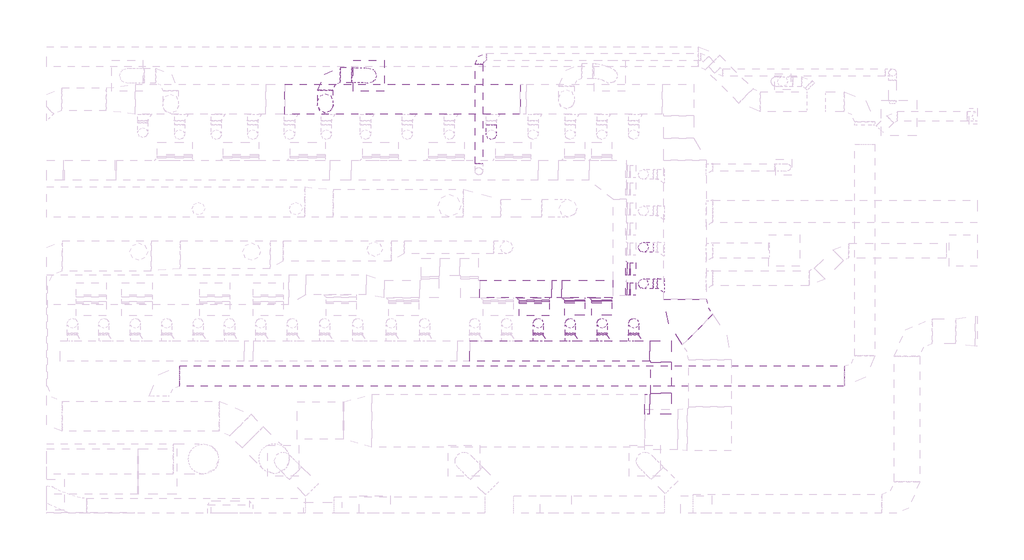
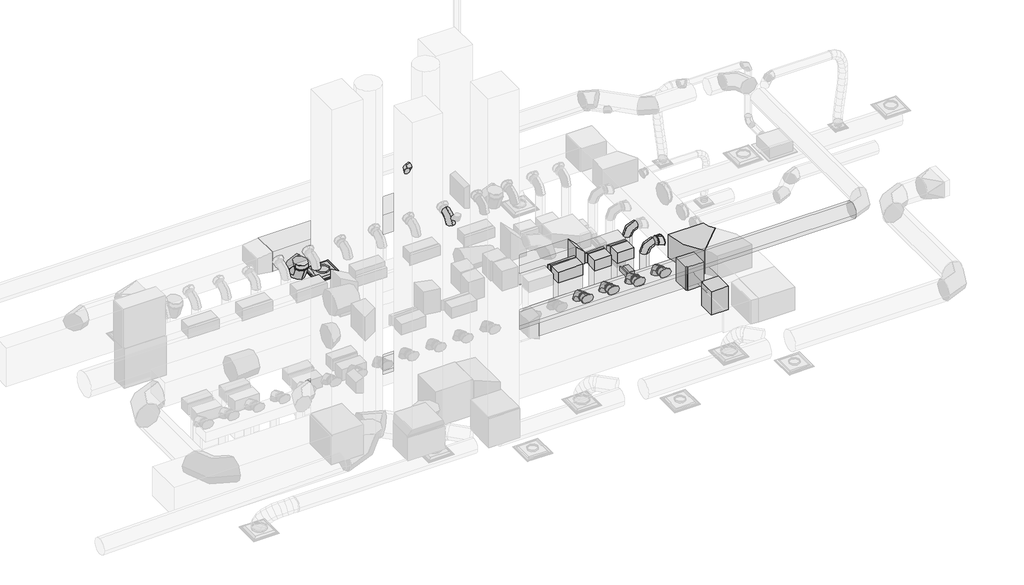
# One storey, part 24 of 33: 31 duct segments, 30 duct fittings, 1 air terminal.
"""IFC4 building model written with IfcOpenShell, lengths in millimetres."""

from ifc_helpers import new_model, si_unit, point, frame, frame_2d, origin, place, context, project, spatial, polyline, circle_curve, ellipse_curve, trimmed, segment, composite_curve, outline, extrude, transform, mapped, element, save
from ifc_brep_helpers import plane_surface, cylinder_surface, advanced_brep
from components import air_terminal_a17ada07, rectangular_elbow_mitered_standard_85b63649, rectangular_elbow_mitered_standard_6d194a55, rectangular_elbow_mitered_standard_7de0f92e, rectangular_elbow_mitered_standard_939e93b7, rectangular_elbow_radius_1_w_274ad7e4, rectangular_tap_beveled_standard_906d3a90, rectangular_tap_beveled_standard_694a58d9, rectangular_tap_beveled_standard_4401fc70, rectangular_transition_angle_45_degree_57f880c2, round_elbow_1_d_b37ad80b, round_elbow_1_d_a253342a, round_elbow_1_d_281bc45b, round_takeoff_shoe_standard_1102fee2, round_takeoff_shoe_standard_f5a08d47

model = new_model("IFC4")

# Units and contexts
model_context = context("Model", 3, world=origin())
ifc_project = project(units=[si_unit("LENGTHUNIT", "METRE", prefix="MILLI")], contexts=[model_context])

# Site, building, storey
site = spatial("IfcSite", under=ifc_project)
building = spatial("IfcBuilding", under=site)
storey = spatial("IfcBuildingStorey", under=building, Name="T.O. SLAB - 1ST", Elevation=-25.4)

# Air terminal
placement = place(None, origin())
air_terminal_shape = air_terminal_a17ada07(model_context)
element("IfcAirTerminal", 1, ObjectType="Titus-Round_Neck_Supply_Diffuser-PCS_Surface_Mount : PCS AA-12_24x24", at=placement, inside=storey, context=model_context, shape_type="MappedRepresentation", body=[
    mapped(air_terminal_shape, transform((21208.9949712, 30772.0034288, 2717.8), x_axis=(0.0, -1.0, 0.0), y_axis=(-1.0, 0.0, 0.0), z_axis=(0.0, 0.0, -1.0))),
])

# Duct fittings
rectangular_elbow_mitered_standard_shape = rectangular_elbow_mitered_standard_85b63649(model_context)
element("IfcDuctFitting", 2, ObjectType="Rectangular Elbow - Mitered : Standard", at=placement, inside=storey, context=model_context, shape_type="MappedRepresentation", body=[
    mapped(rectangular_elbow_mitered_standard_shape, transform((26562.2839544, 26863.4216131, 3251.2), x_axis=(0.0, 0.0, 1.0), y_axis=(-1.0, 0.0, 0.0), z_axis=(0.0, -1.0, 0.0))),
])
element("IfcDuctFitting", 3, ObjectType="Rectangular Elbow - Mitered : Standard", at=placement, inside=storey, context=model_context, shape_type="MappedRepresentation", body=[
    mapped(rectangular_elbow_mitered_standard_shape, transform((26562.2839544, 26458.2361634, 3251.2), x_axis=(0.0, 0.0, 1.0), y_axis=(-1.0, 0.0, 0.0), z_axis=(0.0, -1.0, 0.0))),
])
rectangular_elbow_mitered_standard_2_shape = rectangular_elbow_mitered_standard_6d194a55(model_context)
element("IfcDuctFitting", 4, ObjectType="Rectangular Elbow - Mitered : Standard", at=placement, inside=storey, context=model_context, shape_type="MappedRepresentation", body=[
    mapped(rectangular_elbow_mitered_standard_2_shape, transform((27120.0937998, 25204.454345, 4038.6), x_axis=(0.0, 1.0, 0.0), y_axis=(-1.0, 0.0, 0.0), z_axis=(0.0, 0.0, 1.0))),
])
element("IfcDuctFitting", 5, ObjectType="Rectangular Elbow - Mitered : Standard", at=placement, inside=storey, context=model_context, shape_type="MappedRepresentation", body=[
    mapped(rectangular_elbow_mitered_standard_2_shape, transform((27120.0937998, 24126.6195003, 4038.6), x_axis=(1.0, 0.0, 0.0), y_axis=(0.0, 1.0, 0.0), z_axis=(0.0, 0.0, 1.0))),
])
rectangular_elbow_mitered_standard_3_shape = rectangular_elbow_mitered_standard_7de0f92e(model_context)
element("IfcDuctFitting", 6, ObjectType="Rectangular Elbow - Mitered : Standard", at=placement, inside=storey, context=model_context, shape_type="MappedRepresentation", body=[
    mapped(rectangular_elbow_mitered_standard_3_shape, transform((25372.8804175, 26058.0016528, 4428.5602958), x_axis=(0.0, -1.0, 0.0), y_axis=(0.0, 0.0, -1.0), z_axis=(1.0, 0.0, 0.0))),
])
element("IfcDuctFitting", 7, ObjectType="Rectangular Elbow - Mitered : Standard", at=placement, inside=storey, context=model_context, shape_type="MappedRepresentation", body=[
    mapped(rectangular_elbow_mitered_standard_3_shape, transform((25924.724419, 26058.0016528, 4428.5602958), x_axis=(0.0, -1.0, 0.0), y_axis=(0.0, 0.0, -1.0), z_axis=(1.0, 0.0, 0.0))),
])
rectangular_elbow_mitered_standard_4_shape = rectangular_elbow_mitered_standard_939e93b7(model_context)
element("IfcDuctFitting", 8, ObjectType="Rectangular Elbow - Mitered : Standard", at=placement, inside=storey, context=model_context, shape_type="MappedRepresentation", body=[
    mapped(rectangular_elbow_mitered_standard_4_shape, transform((24555.3314704, 26045.4861634, 4445.0431527), x_axis=(0.0, 0.0, 1.0), y_axis=(0.0, 1.0, 0.0), z_axis=(-1.0, 0.0, 0.0))),
])
rectangular_elbow_radius_1_w_shape = rectangular_elbow_radius_1_w_274ad7e4(model_context)
element("IfcDuctFitting", 9, ObjectType="Rectangular Elbow - Radius : 1 W", at=placement, inside=storey, context=model_context, shape_type="MappedRepresentation", body=[
    mapped(rectangular_elbow_radius_1_w_shape, transform((27607.302516, 25891.0726644, 4038.6), x_axis=(0.0, -1.0, 0.0), y_axis=(1.0, 0.0, 0.0), z_axis=(0.0, 0.0, 1.0))),
])
rectangular_tap_beveled_standard_shape = rectangular_tap_beveled_standard_906d3a90(model_context)
element("IfcDuctFitting", 10, ObjectType="Rectangular Tap - Beveled : Standard", at=placement, inside=storey, context=model_context, shape_type="MappedRepresentation", body=[
    mapped(rectangular_tap_beveled_standard_shape, transform((25372.8804175, 26279.9531965, 4428.5602958), x_axis=(0.0, -1.0, 0.0), y_axis=(-1.0, 0.0, 0.0), z_axis=(0.0, 0.0, -1.0))),
])
element("IfcDuctFitting", 11, ObjectType="Rectangular Tap - Beveled : Standard", at=placement, inside=storey, context=model_context, shape_type="MappedRepresentation", body=[
    mapped(rectangular_tap_beveled_standard_shape, transform((25924.724419, 26279.9531965, 4428.5602958), x_axis=(0.0, -1.0, 0.0), y_axis=(-1.0, 0.0, 0.0), z_axis=(0.0, 0.0, -1.0))),
])
rectangular_tap_beveled_standard_2_shape = rectangular_tap_beveled_standard_694a58d9(model_context)
element("IfcDuctFitting", 12, ObjectType="Rectangular Tap - Beveled : Standard", at=placement, inside=storey, context=model_context, shape_type="MappedRepresentation", body=[
    mapped(rectangular_tap_beveled_standard_2_shape, transform((26413.4288098, 26863.4216131, 3251.2), x_axis=(1.0, 0.0, 0.0), y_axis=(0.0, -1.0, 0.0), z_axis=(0.0, 0.0, -1.0))),
])
element("IfcDuctFitting", 13, ObjectType="Rectangular Tap - Beveled : Standard", at=placement, inside=storey, context=model_context, shape_type="MappedRepresentation", body=[
    mapped(rectangular_tap_beveled_standard_2_shape, transform((26413.4288098, 26458.2361634, 3251.2), x_axis=(1.0, 0.0, 0.0), y_axis=(0.0, -1.0, 0.0), z_axis=(0.0, 0.0, -1.0))),
])
rectangular_tap_beveled_standard_3_shape = rectangular_tap_beveled_standard_4401fc70(model_context)
element("IfcDuctFitting", 14, ObjectType="Rectangular Tap - Beveled : Standard", at=placement, inside=storey, context=model_context, shape_type="MappedRepresentation", body=[
    mapped(rectangular_tap_beveled_standard_3_shape, transform((24555.3314704, 26279.9531965, 4445.0431527), x_axis=(0.0, -1.0, 0.0), y_axis=(-1.0, 0.0, 0.0), z_axis=(0.0, 0.0, -1.0))),
])
rectangular_transition_angle_45_degree_shape = rectangular_transition_angle_45_degree_57f880c2(model_context)
element("IfcDuctFitting", 15, ObjectType="Rectangular Transition - Angle : 45 Degree", at=placement, inside=storey, context=model_context, shape_type="MappedRepresentation", body=[
    mapped(rectangular_transition_angle_45_degree_shape, transform((24911.3031191, 26457.7531965, 4530.1602958), x_axis=(1.0, 0.0, 0.0), y_axis=(0.0, 1.0, 0.0), z_axis=(0.0, 0.0, 1.0))),
])
round_elbow_1_d_shape = round_elbow_1_d_b37ad80b(model_context)
element("IfcDuctFitting", 16, ObjectType="Round Elbow : 1 D", at=placement, inside=storey, context=model_context, shape_type="MappedRepresentation", body=[
    mapped(round_elbow_1_d_shape, transform((23437.194317, 31153.0034288, 4437.3601563), x_axis=(-1.0, 0.0, 0.0), y_axis=(0.0, -1.0, 0.0), z_axis=(0.0, 0.0, 1.0))),
])
round_elbow_1_d_2_shape = round_elbow_1_d_a253342a(model_context)
element("IfcDuctFitting", 17, ObjectType="Round Elbow : 1 D", at=placement, inside=storey, context=model_context, shape_type="MappedRepresentation", body=[
    mapped(round_elbow_1_d_2_shape, transform((24640.8515196, 25766.0861634, 4038.6), x_axis=(0.0, 0.0, 1.0), y_axis=(0.0, -1.0, 0.0), z_axis=(1.0, 0.0, 0.0))),
])
element("IfcDuctFitting", 18, ObjectType="Round Elbow : 1 D", at=placement, inside=storey, context=model_context, shape_type="MappedRepresentation", body=[
    mapped(round_elbow_1_d_2_shape, transform((25288.5515196, 25766.0861634, 4038.6), x_axis=(0.0, 0.0, 1.0), y_axis=(0.0, -1.0, 0.0), z_axis=(1.0, 0.0, 0.0))),
])
element("IfcDuctFitting", 19, ObjectType="Round Elbow : 1 D", at=placement, inside=storey, context=model_context, shape_type="MappedRepresentation", body=[
    mapped(round_elbow_1_d_2_shape, transform((25929.9015196, 25766.0861634, 4038.6), x_axis=(0.0, 0.0, 1.0), y_axis=(0.0, -1.0, 0.0), z_axis=(1.0, 0.0, 0.0))),
])
element("IfcDuctFitting", 20, ObjectType="Round Elbow : 1 D", at=placement, inside=storey, context=model_context, shape_type="MappedRepresentation", body=[
    mapped(round_elbow_1_d_2_shape, transform((26571.2515196, 25766.0861634, 4038.6), x_axis=(0.0, 0.0, 1.0), y_axis=(0.0, -1.0, 0.0), z_axis=(1.0, 0.0, 0.0))),
])
element("IfcDuctFitting", 21, ObjectType="Round Elbow : 1 D", at=placement, inside=storey, context=model_context, shape_type="MappedRepresentation", body=[
    mapped(round_elbow_1_d_2_shape, transform((23691.2432215, 29579.704725, 4038.6), x_axis=(0.0, 0.0, 1.0), y_axis=(0.0, 1.0, 0.0), z_axis=(-1.0, 0.0, 0.0))),
])
element("IfcDuctFitting", 22, ObjectType="Round Elbow : 1 D", at=placement, inside=storey, context=model_context, shape_type="MappedRepresentation", body=[
    mapped(round_elbow_1_d_2_shape, transform((26765.4839578, 26566.2124882, 4038.6), x_axis=(0.0, 0.0, 1.0), y_axis=(1.0, 0.0, 0.0), z_axis=(0.0, 1.0, 0.0))),
])
element("IfcDuctFitting", 23, ObjectType="Round Elbow : 1 D", at=placement, inside=storey, context=model_context, shape_type="MappedRepresentation", body=[
    mapped(round_elbow_1_d_2_shape, transform((26765.4839578, 27302.8124882, 4038.6), x_axis=(0.0, 0.0, 1.0), y_axis=(1.0, 0.0, 0.0), z_axis=(0.0, 1.0, 0.0))),
])
round_elbow_1_d_3_shape = round_elbow_1_d_281bc45b(model_context)
element("IfcDuctFitting", 24, ObjectType="Round Elbow : 1 D", at=placement, inside=storey, context=model_context, shape_type="MappedRepresentation", body=[
    mapped(round_elbow_1_d_3_shape, transform((20333.7471939, 30785.1213586, 3200.4), x_axis=(-1.0, 0.0, 0.0), y_axis=(0.0, -1.0, 0.0), z_axis=(0.0, 0.0, 1.0))),
])
element("IfcDuctFitting", 25, ObjectType="Round Elbow : 1 D", at=placement, inside=storey, context=model_context, shape_type="MappedRepresentation", body=[
    mapped(round_elbow_1_d_3_shape, transform((20333.7471939, 30175.5213586, 3200.4), x_axis=(0.0, -1.0, 0.0), y_axis=(0.0, 0.0, 1.0), z_axis=(-1.0, 0.0, 0.0))),
])
round_takeoff_shoe_standard_shape = round_takeoff_shoe_standard_1102fee2(model_context)
element("IfcDuctFitting", 26, ObjectType="Round Takeoff - Shoe : Standard", at=placement, inside=storey, context=model_context, shape_type="MappedRepresentation", body=[
    mapped(round_takeoff_shoe_standard_shape, transform((24640.8515196, 25407.654345, 4038.6), x_axis=(0.0, 1.0, 0.0), y_axis=(1.0, 0.0, 0.0), z_axis=(0.0, 0.0, -1.0))),
])
element("IfcDuctFitting", 27, ObjectType="Round Takeoff - Shoe : Standard", at=placement, inside=storey, context=model_context, shape_type="MappedRepresentation", body=[
    mapped(round_takeoff_shoe_standard_shape, transform((25288.5515196, 25407.654345, 4038.6), x_axis=(0.0, 1.0, 0.0), y_axis=(1.0, 0.0, 0.0), z_axis=(0.0, 0.0, -1.0))),
])
element("IfcDuctFitting", 28, ObjectType="Round Takeoff - Shoe : Standard", at=placement, inside=storey, context=model_context, shape_type="MappedRepresentation", body=[
    mapped(round_takeoff_shoe_standard_shape, transform((25929.9015196, 25407.654345, 4038.6), x_axis=(0.0, 1.0, 0.0), y_axis=(1.0, 0.0, 0.0), z_axis=(0.0, 0.0, -1.0))),
])
element("IfcDuctFitting", 29, ObjectType="Round Takeoff - Shoe : Standard", at=placement, inside=storey, context=model_context, shape_type="MappedRepresentation", body=[
    mapped(round_takeoff_shoe_standard_shape, transform((26571.2515196, 25407.654345, 4038.6), x_axis=(0.0, 1.0, 0.0), y_axis=(1.0, 0.0, 0.0), z_axis=(0.0, 0.0, -1.0))),
])
element("IfcDuctFitting", 30, ObjectType="Round Takeoff - Shoe : Standard", at=placement, inside=storey, context=model_context, shape_type="MappedRepresentation", body=[
    mapped(round_takeoff_shoe_standard_shape, transform((27175.502516, 26566.2124882, 4038.6), x_axis=(-1.0, 0.0, 0.0), y_axis=(0.0, -1.0000000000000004, 0.0), z_axis=(0.0, 0.0, 1.0000000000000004))),
])
round_takeoff_shoe_standard_2_shape = round_takeoff_shoe_standard_f5a08d47(model_context)
element("IfcDuctFitting", 31, ObjectType="Round Takeoff - Shoe : Standard", at=placement, inside=storey, context=model_context, shape_type="MappedRepresentation", body=[
    mapped(round_takeoff_shoe_standard_2_shape, transform((20333.7471939, 30175.5213586, 3632.2), x_axis=(0.0, 0.0, -1.0), y_axis=(0.0, 1.0000000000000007, 0.0), z_axis=(1.0000000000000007, 0.0, 0.0))),
])

# Duct segments
element("IfcDuctSegment", 32, ObjectType="Flex - Round", at=placement, inside=storey, context=model_context, shape_type="AdvancedBrep", body=[
    advanced_brep(
    [(20867.1471939, 30937.5213586, 3200.4), (20867.1471939, 30785.1213586, 3048.0), (20867.1471939, 30632.7213586, 3200.4), (20867.1471939, 30785.1213586, 3352.8), (20898.2481378, 30937.5213586, 3200.4), (20874.1723405, 30785.1213586, 3048.0), (20895.6575893, 30632.7213586, 3200.4), (20919.7333867, 30785.1213586, 3352.8), (21213.9127527, 30924.3240624, 2806.7), (21361.3156048, 30767.0856473, 2806.7), (21204.0771897, 30619.6827952, 2806.7), (21056.6743376, 30776.9212103, 2806.7), (20956.1502345, 30936.5145499, 3182.6928384), (20891.6576884, 30784.8173213, 3042.6527691), (20949.5212677, 30631.7847704, 3183.9278355), (21014.0138138, 30783.481999, 3323.9679048), (21037.6422783, 30934.0464067, 3135.6046002), (20940.464829, 30783.3391032, 3014.4507244), (21028.4447516, 30629.394421, 3138.3237786), (21125.6222008, 30780.1017245, 3259.4776544), (21108.5151238, 30930.8591798, 3066.7553154), (20985.80329, 30781.3001846, 2970.4067666), (21098.0186805, 30626.2656077, 3070.7363237), (21220.7305142, 30775.8246029, 3167.0848725), (21164.3131443, 30927.697613, 2983.956103), (21023.9657125, 30779.1378669, 2913.7771855), (21153.6915145, 30623.1111342, 2988.1228767), (21294.0389463, 30771.6708803, 3058.3017942), (21200.8589669, 30925.2814612, 2894.6301809), (21049.1783969, 30777.4709822, 2852.1519131), (21190.6334601, 30620.6687935, 2897.8287442), (21342.3140302, 30768.4792725, 2940.307012), (21213.9127527, 30924.3240624, 2828.4572336), (21056.6743376, 30776.9212103, 2814.1530905), (21204.0771897, 30619.6827952, 2829.6790726), (21361.3156048, 30767.0856473, 2843.9832158)],
    [
        (0, 1, circle_curve(frame((20867.1471939, 30785.1213586, 3200.4), z_axis=(-1.0, 0.0, 0.0), x_axis=(0.0, 1.0, 0.0)), 152.4)),
        (1, 2, circle_curve(frame((20867.1471939, 30785.1213586, 3200.4), z_axis=(-1.0, 0.0, 0.0), x_axis=(0.0, 1.0, 0.0)), 152.4)),
        (2, 3, circle_curve(frame((20867.1471939, 30785.1213586, 3200.4), z_axis=(-1.0, 0.0, 0.0), x_axis=(0.0, 1.0, 0.0)), 152.4)),
        (3, 0, circle_curve(frame((20867.1471939, 30785.1213586, 3200.4), z_axis=(-1.0, 0.0, 0.0), x_axis=(0.0, 1.0, 0.0)), 152.4)),
        (0, 4),
        (4, 5, ellipse_curve(frame((20896.9528636, 30785.1213586, 3200.4), z_axis=(-0.98897694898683, 0.008405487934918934, 0.14783078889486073), x_axis=(-0.14806955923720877, -0.056141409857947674, -0.9873821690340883)), 154.0986371, 152.4)),
        (5, 1),
        (5, 6, ellipse_curve(frame((20896.9528636, 30785.1213586, 3200.4), z_axis=(-0.98897694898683, 0.008405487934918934, 0.14783078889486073), x_axis=(-0.14806955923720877, -0.056141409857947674, -0.9873821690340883)), 154.0986371, 152.4)),
        (6, 2),
        (6, 7, ellipse_curve(frame((20896.9528636, 30785.1213586, 3200.4), z_axis=(-0.98897694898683, 0.008405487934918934, 0.14783078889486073), x_axis=(-0.14806955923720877, -0.056141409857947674, -0.9873821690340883)), 154.0986371, 152.4)),
        (7, 3),
        (7, 4, ellipse_curve(frame((20896.9528636, 30785.1213586, 3200.4), z_axis=(-0.98897694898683, 0.008405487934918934, 0.14783078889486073), x_axis=(-0.14806955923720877, -0.056141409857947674, -0.9873821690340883)), 154.0986371, 152.4)),
        (8, 9, circle_curve(frame((21208.9949712, 30772.0034288, 2806.7), z_axis=(0.0, 0.0, -1.0), x_axis=(0.03226890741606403, 0.9994792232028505, 0.0)), 152.4)),
        (9, 10, circle_curve(frame((21208.9949712, 30772.0034288, 2806.7), z_axis=(0.0, 0.0, -1.0), x_axis=(0.03226890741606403, 0.9994792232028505, 0.0)), 152.4)),
        (10, 11, circle_curve(frame((21208.9949712, 30772.0034288, 2806.7), z_axis=(0.0, 0.0, -1.0), x_axis=(0.03226890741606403, 0.9994792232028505, 0.0)), 152.4)),
        (11, 8, circle_curve(frame((21208.9949712, 30772.0034288, 2806.7), z_axis=(0.0, 0.0, -1.0), x_axis=(0.03226890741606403, 0.9994792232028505, 0.0)), 152.4)),
        (4, 12),
        (12, 13, ellipse_curve(frame((20952.8357511, 30784.1496601, 3183.310337), z_axis=(-0.9167655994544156, 0.021559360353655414, 0.398843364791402), x_axis=(-0.3994152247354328, -0.04227366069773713, -0.9157949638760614)), 153.3897626, 152.4)),
        (13, 5),
        (13, 14, ellipse_curve(frame((20952.8357511, 30784.1496601, 3183.310337), z_axis=(-0.9167655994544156, 0.021559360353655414, 0.398843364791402), x_axis=(-0.3994152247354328, -0.04227366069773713, -0.9157949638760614)), 153.3897626, 152.4)),
        (14, 6),
        (14, 15, ellipse_curve(frame((20952.8357511, 30784.1496601, 3183.310337), z_axis=(-0.9167655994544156, 0.021559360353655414, 0.398843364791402), x_axis=(-0.3994152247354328, -0.04227366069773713, -0.9157949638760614)), 153.3897626, 152.4)),
        (15, 7),
        (15, 12, ellipse_curve(frame((20952.8357511, 30784.1496601, 3183.310337), z_axis=(-0.9167655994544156, 0.021559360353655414, 0.398843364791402), x_axis=(-0.3994152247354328, -0.04227366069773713, -0.9157949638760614)), 153.3897626, 152.4)),
        (12, 16),
        (16, 17, ellipse_curve(frame((21033.0435149, 30781.7204139, 3136.9641894), z_axis=(-0.7972934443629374, 0.029451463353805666, 0.6028729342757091), x_axis=(-0.6035288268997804, -0.024461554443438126, -0.796965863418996)), 153.5689668, 152.4)),
        (17, 13),
        (17, 18, ellipse_curve(frame((21033.0435149, 30781.7204139, 3136.9641894), z_axis=(-0.7972934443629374, 0.029451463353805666, 0.6028729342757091), x_axis=(-0.6035288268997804, -0.024461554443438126, -0.796965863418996)), 153.5689668, 152.4)),
        (18, 14),
        (18, 19, ellipse_curve(frame((21033.0435149, 30781.7204139, 3136.9641894), z_axis=(-0.7972934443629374, 0.029451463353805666, 0.6028729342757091), x_axis=(-0.6035288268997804, -0.024461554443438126, -0.796965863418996)), 153.5689668, 152.4)),
        (19, 15),
        (19, 16, ellipse_curve(frame((21033.0435149, 30781.7204139, 3136.9641894), z_axis=(-0.7972934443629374, 0.029451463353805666, 0.6028729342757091), x_axis=(-0.6035288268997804, -0.024461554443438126, -0.796965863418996)), 153.5689668, 152.4)),
        (16, 20),
        (20, 21, ellipse_curve(frame((21103.2669021, 30778.5623937, 3068.7458196), z_axis=(-0.6411554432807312, 0.032115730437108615, 0.7667387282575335), x_axis=(-0.767072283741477, 0.0028632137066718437, -0.6415542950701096)), 153.2182168, 152.4)),
        (21, 17),
        (21, 22, ellipse_curve(frame((21103.2669021, 30778.5623937, 3068.7458196), z_axis=(-0.6411554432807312, 0.032115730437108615, 0.7667387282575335), x_axis=(-0.767072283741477, 0.0028632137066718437, -0.6415542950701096)), 153.2182168, 152.4)),
        (22, 18),
        (22, 23, ellipse_curve(frame((21103.2669021, 30778.5623937, 3068.7458196), z_axis=(-0.6411554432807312, 0.032115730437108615, 0.7667387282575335), x_axis=(-0.767072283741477, 0.0028632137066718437, -0.6415542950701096)), 153.2182168, 152.4)),
        (23, 19),
        (23, 20, ellipse_curve(frame((21103.2669021, 30778.5623937, 3068.7458196), z_axis=(-0.6411554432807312, 0.032115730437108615, 0.7667387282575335), x_axis=(-0.767072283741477, 0.0028632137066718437, -0.6415542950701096)), 153.2182168, 152.4)),
        (20, 24),
        (24, 25, ellipse_curve(frame((21159.0023294, 30775.4043736, 2986.0394899), z_axis=(-0.47101802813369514, 0.028486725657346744, 0.8816634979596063), x_axis=(-0.8811223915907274, 0.032412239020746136, -0.4717761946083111)), 153.2014475, 152.4)),
        (25, 21),
        (25, 26, ellipse_curve(frame((21159.0023294, 30775.4043736, 2986.0394899), z_axis=(-0.47101802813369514, 0.028486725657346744, 0.8816634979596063), x_axis=(-0.8811223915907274, 0.032412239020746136, -0.4717761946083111)), 153.2014475, 152.4)),
        (26, 22),
        (26, 27, ellipse_curve(frame((21159.0023294, 30775.4043736, 2986.0394899), z_axis=(-0.47101802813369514, 0.028486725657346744, 0.8816634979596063), x_axis=(-0.8811223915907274, 0.032412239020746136, -0.4717761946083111)), 153.2014475, 152.4)),
        (27, 23),
        (27, 24, ellipse_curve(frame((21159.0023294, 30775.4043736, 2986.0394899), z_axis=(-0.47101802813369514, 0.028486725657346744, 0.8816634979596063), x_axis=(-0.8811223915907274, 0.032412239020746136, -0.4717761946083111)), 153.2014475, 152.4)),
        (24, 28),
        (28, 29, ellipse_curve(frame((21195.7462135, 30772.9751273, 2896.2294626), z_axis=(-0.2873802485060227, 0.019702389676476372, 0.9576139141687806), x_axis=(-0.9559805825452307, 0.05597403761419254, -0.28804172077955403)), 153.1186639, 152.4)),
        (29, 25),
        (29, 30, ellipse_curve(frame((21195.7462135, 30772.9751273, 2896.2294626), z_axis=(-0.2873802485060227, 0.019702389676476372, 0.9576139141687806), x_axis=(-0.9559805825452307, 0.05597403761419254, -0.28804172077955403)), 153.1186639, 152.4)),
        (30, 26),
        (30, 31, ellipse_curve(frame((21195.7462135, 30772.9751273, 2896.2294626), z_axis=(-0.2873802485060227, 0.019702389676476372, 0.9576139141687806), x_axis=(-0.9559805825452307, 0.05597403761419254, -0.28804172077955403)), 153.1186639, 152.4)),
        (31, 27),
        (31, 28, ellipse_curve(frame((21195.7462135, 30772.9751273, 2896.2294626), z_axis=(-0.2873802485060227, 0.019702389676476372, 0.9576139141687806), x_axis=(-0.9559805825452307, 0.05597403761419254, -0.28804172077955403)), 153.1186639, 152.4)),
        (28, 32),
        (32, 33, ellipse_curve(frame((21208.9949712, 30772.0034288, 2829.0681531), z_axis=(-0.09722227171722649, 0.007130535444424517, 0.9952371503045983), x_axis=(-0.9925711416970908, 0.07279776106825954, -0.09748340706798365)), 153.129332, 152.4)),
        (33, 29),
        (33, 34, ellipse_curve(frame((21208.9949712, 30772.0034288, 2829.0681531), z_axis=(-0.09722227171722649, 0.007130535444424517, 0.9952371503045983), x_axis=(-0.9925711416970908, 0.07279776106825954, -0.09748340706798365)), 153.129332, 152.4)),
        (34, 30),
        (34, 35, ellipse_curve(frame((21208.9949712, 30772.0034288, 2829.0681531), z_axis=(-0.09722227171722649, 0.007130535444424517, 0.9952371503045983), x_axis=(-0.9925711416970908, 0.07279776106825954, -0.09748340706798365)), 153.129332, 152.4)),
        (35, 31),
        (35, 32, ellipse_curve(frame((21208.9949712, 30772.0034288, 2829.0681531), z_axis=(-0.09722227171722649, 0.007130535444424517, 0.9952371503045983), x_axis=(-0.9925711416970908, 0.07279776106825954, -0.09748340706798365)), 153.129332, 152.4)),
        (32, 8),
        (11, 33),
        (10, 34),
        (9, 35),
    ],
    [
        plane_surface(frame((20867.1471939, 30785.1213586, 3048.0), z_axis=(-1.0, 0.0, 0.0), x_axis=(0.0, 1.0, 0.0))),
        cylinder_surface(frame((20867.1471939, 30785.1213586, 3200.4), z_axis=(-1.0, 0.0, 0.0), x_axis=(0.0, 1.0, 0.0)), 152.4),
        plane_surface(frame((21208.9949712, 30619.6034288, 2806.7), z_axis=(0.0, 0.0, -1.0), x_axis=(-1.0, 0.0, 0.0))),
        cylinder_surface(frame((20896.9528636, 30785.1213586, 3200.4), z_axis=(-0.9561508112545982, 0.01662566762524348, 0.2924024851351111), x_axis=(0.01662566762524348, 0.9998586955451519, -0.0024851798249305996)), 152.4),
        cylinder_surface(frame((20952.8357511, 30784.1496601, 3183.310337), z_axis=(-0.8655493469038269, 0.02621482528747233, 0.500137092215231), x_axis=(0.026386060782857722, 0.9996291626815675, -0.006731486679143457)), 152.4),
        cylinder_surface(frame((21033.0435149, 30781.7204139, 3136.9641894), z_axis=(-0.7168995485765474, 0.032239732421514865, 0.6964306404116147), x_axis=(0.0333143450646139, 0.9993732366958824, -0.0119703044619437)), 152.4),
        cylinder_surface(frame((21103.2669021, 30778.5623937, 3068.7458196), z_axis=(-0.5585635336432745, 0.03164871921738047, 0.828857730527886), x_axis=(0.03531196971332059, 0.9992731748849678, -0.014359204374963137)), 152.4),
        cylinder_surface(frame((21159.0023294, 30775.4043736, 2986.0394899), z_axis=(-0.37854441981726, 0.025026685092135, 0.9252447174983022), x_axis=(0.0345333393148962, 0.9993202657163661, -0.012901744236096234)), 152.4),
        cylinder_surface(frame((21195.7462135, 30772.9751273, 2896.2294626), z_axis=(-0.19351843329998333, 0.014193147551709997, 0.9809939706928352), x_axis=(0.03304465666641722, 0.9994223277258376, -0.007941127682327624)), 152.4),
        cylinder_surface(frame((21208.9949712, 30772.0034288, 2829.0681531), z_axis=(0.0, 0.0, 1.0), x_axis=(0.03226890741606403, 0.9994792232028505, 0.0)), 152.4),
    ],
    [
        (0, [[1, 2, 3, 4]]),
        (1, [[-1, 5, 6, 7]]),
        (1, [[-2, -7, 8, 9]]),
        (1, [[-3, -9, 10, 11]]),
        (1, [[-4, -11, 12, -5]]),
        (2, [[13, 14, 15, 16]]),
        (3, [[-6, 17, 18, 19]]),
        (3, [[-8, -19, 20, 21]]),
        (3, [[-10, -21, 22, 23]]),
        (3, [[-12, -23, 24, -17]]),
        (4, [[-18, 25, 26, 27]]),
        (4, [[-20, -27, 28, 29]]),
        (4, [[-22, -29, 30, 31]]),
        (4, [[-24, -31, 32, -25]]),
        (5, [[-26, 33, 34, 35]]),
        (5, [[-28, -35, 36, 37]]),
        (5, [[-30, -37, 38, 39]]),
        (5, [[-32, -39, 40, -33]]),
        (6, [[-34, 41, 42, 43]]),
        (6, [[-36, -43, 44, 45]]),
        (6, [[-38, -45, 46, 47]]),
        (6, [[-40, -47, 48, -41]]),
        (7, [[-42, 49, 50, 51]]),
        (7, [[-44, -51, 52, 53]]),
        (7, [[-46, -53, 54, 55]]),
        (7, [[-48, -55, 56, -49]]),
        (8, [[-50, 57, 58, 59]]),
        (8, [[-52, -59, 60, 61]]),
        (8, [[-54, -61, 62, 63]]),
        (8, [[-56, -63, 64, -57]]),
        (9, [[-58, 65, -16, 66]]),
        (9, [[-60, -66, -15, 67]]),
        (9, [[-62, -67, -14, 68]]),
        (9, [[-64, -68, -13, -65]]),
    ],
),
])
element("IfcDuctSegment", 33, ObjectType="Mitered Elbows / Taps", at=placement, inside=storey, context=model_context, shape_type="SweptSolid", body=[
    extrude(outline(polyline([(23249.5335927, 25001.254345), (23249.5335927, 25407.654345), (26891.4937998, 25407.654345), (26891.4937998, 25001.254345), (23249.5335927, 25001.254345)])), frame((0.0, 0.0, 3733.8), z_axis=(0.0, 0.0, 1.0), x_axis=(1.0, 0.0, 0.0)), (0.0, 0.0, 1.0), 609.6),
])
element("IfcDuctSegment", 34, ObjectType="Mitered Elbows / Taps", at=placement, inside=storey, context=model_context, shape_type="SweptSolid", body=[
    extrude(outline(polyline([(26916.8937998, 24975.854345), (27323.2937998, 24975.854345), (27323.2937998, 24355.2195003), (26916.8937998, 24355.2195003), (26916.8937998, 24975.854345)])), frame((0.0, 0.0, 3733.8), z_axis=(0.0, 0.0, 1.0), x_axis=(1.0, 0.0, 0.0)), (0.0, 0.0, 1.0), 609.6),
])
element("IfcDuctSegment", 35, ObjectType="Mitered Elbows / Taps", at=placement, inside=storey, context=model_context, shape_type="SweptSolid", body=[
    extrude(outline(polyline([(25114.5031191, 26279.9531965), (25114.5031191, 26635.5531965), (26141.6736241, 26635.5531965), (26141.6736241, 26279.9531965), (25114.5031191, 26279.9531965)])), frame((0.0, 0.0, 4276.1602958), z_axis=(0.0, 0.0, 1.0), x_axis=(1.0, 0.0, 0.0)), (0.0, 0.0, 1.0), 304.8),
])
element("IfcDuctSegment", 36, ObjectType="Mitered Elbows / Taps", at=placement, inside=storey, context=model_context, shape_type="SweptSolid", body=[
    extrude(outline(polyline([(23454.882861, 26279.9531965), (23454.882861, 26635.5531965), (24911.3031191, 26635.5531965), (24911.3031191, 26279.9531965), (23454.882861, 26279.9531965)])), frame((0.0, 0.0, 4276.1602958), z_axis=(0.0, 0.0, 1.0), x_axis=(1.0, 0.0, 0.0)), (0.0, 0.0, 1.0), 508.0),
])
element("IfcDuctSegment", 37, ObjectType="Mitered Elbows / Taps", at=placement, inside=storey, context=model_context, shape_type="SweptSolid", body=[
    extrude(outline(polyline([(24860.1314704, 25918.4861634), (24250.5314704, 25918.4861634), (24250.5314704, 26172.4861634), (24860.1314704, 26172.4861634), (24860.1314704, 25918.4861634)])), frame((0.0, 0.0, 3010.628306), z_axis=(0.0, 0.0, 1.0), x_axis=(1.0, 0.0, 0.0)), (0.0, 0.0, 1.0), 1282.0148466),
])
element("IfcDuctSegment", 38, ObjectType="Mitered Elbows / Taps", at=placement, inside=storey, context=model_context, shape_type="SweptSolid", body=[
    extrude(outline(polyline([(24860.1314704, 26197.8861634), (24250.5314704, 26197.8861634), (24250.5314704, 26229.1531965), (24860.1314704, 26229.1531965), (24860.1314704, 26197.8861634)])), frame((0.0, 0.0, 4318.0431527), z_axis=(0.0, 0.0, 1.0), x_axis=(1.0, 0.0, 0.0)), (0.0, 0.0, 1.0), 254.0),
])
element("IfcDuctSegment", 39, ObjectType="Mitered Elbows / Taps", at=placement, inside=storey, context=model_context, shape_type="SweptSolid", body=[
    extrude(outline(polyline([(25576.0804175, 26210.4016528), (25169.6804175, 26210.4016528), (25169.6804175, 26229.1531965), (25576.0804175, 26229.1531965), (25576.0804175, 26210.4016528)])), frame((0.0, 0.0, 4301.5602958), z_axis=(0.0, 0.0, 1.0), x_axis=(1.0, 0.0, 0.0)), (0.0, 0.0, 1.0), 254.0),
])
element("IfcDuctSegment", 40, ObjectType="Mitered Elbows / Taps", at=placement, inside=storey, context=model_context, shape_type="SweptSolid", body=[
    extrude(outline(polyline([(26127.924419, 26210.4016528), (25721.524419, 26210.4016528), (25721.524419, 26229.1531965), (26127.924419, 26229.1531965), (26127.924419, 26210.4016528)])), frame((0.0, 0.0, 4301.5602958), z_axis=(0.0, 0.0, 1.0), x_axis=(1.0, 0.0, 0.0)), (0.0, 0.0, 1.0), 254.0),
])
element("IfcDuctSegment", 41, ObjectType="Mitered Elbows / Taps", at=placement, inside=storey, context=model_context, shape_type="SweptSolid", body=[
    extrude(outline(polyline([(26511.4839544, 26736.4216131), (26511.4839544, 26990.4216131), (26613.0839544, 26990.4216131), (26613.0839544, 26736.4216131), (26511.4839544, 26736.4216131)])), frame((0.0, 0.0, 3010.628306), z_axis=(0.0, 0.0, 1.0), x_axis=(1.0, 0.0, 0.0)), (0.0, 0.0, 1.0), 164.371694),
])
element("IfcDuctSegment", 42, ObjectType="Mitered Elbows / Taps", at=placement, inside=storey, context=model_context, shape_type="SweptSolid", body=[
    extrude(outline(polyline([(26486.0839544, 26990.4216131), (26486.0839544, 26736.4216131), (26438.8288098, 26736.4216131), (26438.8288098, 26990.4216131), (26486.0839544, 26990.4216131)])), frame((0.0, 0.0, 3200.4), z_axis=(0.0, 0.0, 1.0), x_axis=(1.0, 0.0, 0.0)), (0.0, 0.0, 1.0), 101.6),
])
element("IfcDuctSegment", 43, ObjectType="Mitered Elbows / Taps", at=placement, inside=storey, context=model_context, shape_type="SweptSolid", body=[
    extrude(outline(polyline([(26511.4839544, 26331.2361634), (26511.4839544, 26585.2361634), (26613.0839544, 26585.2361634), (26613.0839544, 26331.2361634), (26511.4839544, 26331.2361634)])), frame((0.0, 0.0, 3010.628306), z_axis=(0.0, 0.0, 1.0), x_axis=(1.0, 0.0, 0.0)), (0.0, 0.0, 1.0), 164.371694),
])
element("IfcDuctSegment", 44, ObjectType="Mitered Elbows / Taps", at=placement, inside=storey, context=model_context, shape_type="SweptSolid", body=[
    extrude(outline(polyline([(26486.0839544, 26585.2361634), (26486.0839544, 26331.2361634), (26438.8288098, 26331.2361634), (26438.8288098, 26585.2361634), (26486.0839544, 26585.2361634)])), frame((0.0, 0.0, 3200.4), z_axis=(0.0, 0.0, 1.0), x_axis=(1.0, 0.0, 0.0)), (0.0, 0.0, 1.0), 101.6),
])
element("IfcDuctSegment", 45, ObjectType="Mitered Elbows / Taps", at=placement, inside=storey, context=model_context, shape_type="SweptSolid", body=[
    extrude(outline(polyline([(26891.4937998, 24329.8195003), (26891.4937998, 23923.4195003), (26794.2536642, 23923.4195003), (26794.2536642, 24329.8195003), (26891.4937998, 24329.8195003)])), frame((0.0, 0.0, 3733.8), z_axis=(0.0, 0.0, 1.0), x_axis=(1.0, 0.0, 0.0)), (0.0, 0.0, 1.0), 609.6),
])
element("IfcDuctSegment", 46, ObjectType="Mitered Elbows / Taps", at=placement, inside=storey, context=model_context, shape_type="SweptSolid", body=[
    extrude(outline(polyline([(25576.0804175, 26185.0016528), (25576.0804175, 25931.0016528), (25169.6804175, 25931.0016528), (25169.6804175, 26185.0016528), (25576.0804175, 26185.0016528)])), frame((0.0, 0.0, 3010.628306), z_axis=(0.0, 0.0, 1.0), x_axis=(1.0, 0.0, 0.0)), (0.0, 0.0, 1.0), 1265.5319898),
])
element("IfcDuctSegment", 47, ObjectType="Mitered Elbows / Taps", at=placement, inside=storey, context=model_context, shape_type="SweptSolid", body=[
    extrude(outline(polyline([(26127.924419, 26185.0016528), (26127.924419, 25931.0016528), (25721.524419, 25931.0016528), (25721.524419, 26185.0016528), (26127.924419, 26185.0016528)])), frame((0.0, 0.0, 3010.628306), z_axis=(0.0, 0.0, 1.0), x_axis=(1.0, 0.0, 0.0)), (0.0, 0.0, 1.0), 1265.5319898),
])
element("IfcDuctSegment", 48, ObjectType="Radius Elbows / Tees", at=placement, inside=storey, context=model_context, shape_type="SweptSolid", body=[
    extrude(outline(polyline([(24270.8803593, 30599.2408687), (24270.8803593, 29989.6408687), (19515.6150589, 29989.6408687), (19515.6150589, 30599.2408687), (24270.8803593, 30599.2408687)])), frame((0.0, 0.0, 3784.6), z_axis=(0.0, 0.0, 1.0), x_axis=(1.0, 0.0, 0.0)), (0.0, 0.0, 1.0), 508.0),
])
element("IfcDuctSegment", 49, ObjectType="Taps", at=placement, inside=storey, context=model_context, shape_type="SweptSolid", body=[
    extrude(outline(composite_curve([segment(trimmed(circle_curve(frame_2d((4038.6, 24640.8515196)), 101.6), [point((4038.6, 24539.2515196))], [point((3937.0, 24640.8515196))], False, "CARTESIAN"), True, "CONTINUOUS"), segment(trimmed(circle_curve(frame_2d((4038.6, 24640.8515196)), 101.6), [point((3937.0, 24640.8515196))], [point((4038.6, 24742.4515196))], False, "CARTESIAN"), True, "CONTINUOUS"), segment(trimmed(circle_curve(frame_2d((4038.6, 24640.8515196)), 101.6), [point((4038.6, 24742.4515196))], [point((4140.2, 24640.8515196))], False, "CARTESIAN"), True, "CONTINUOUS"), segment(trimmed(circle_curve(frame_2d((4038.6, 24640.8515196)), 101.6), [point((4140.2, 24640.8515196))], [point((4038.6, 24539.2515196))], False, "CARTESIAN"), True, "CONTINUOUS")], self_intersect=False)), frame((0.0, 25534.654345, 0.0), z_axis=(0.0, 1.0, 0.0), x_axis=(0.0, 0.0, 1.0)), (0.0, 0.0, 1.0), 28.2318184),
])
element("IfcDuctSegment", 50, ObjectType="Taps", at=placement, inside=storey, context=model_context, shape_type="SweptSolid", body=[
    extrude(outline(composite_curve([segment(trimmed(circle_curve(frame_2d((24640.8515196, 25766.0861634)), 101.6), [point((24742.4515196, 25766.0861634))], [point((24640.8515196, 25664.4861634))], False, "CARTESIAN"), True, "CONTINUOUS"), segment(trimmed(circle_curve(frame_2d((24640.8515196, 25766.0861634)), 101.6), [point((24640.8515196, 25664.4861634))], [point((24539.2515196, 25766.0861634))], False, "CARTESIAN"), True, "CONTINUOUS"), segment(trimmed(circle_curve(frame_2d((24640.8515196, 25766.0861634)), 101.6), [point((24539.2515196, 25766.0861634))], [point((24640.8515196, 25867.6861634))], False, "CARTESIAN"), True, "CONTINUOUS"), segment(trimmed(circle_curve(frame_2d((24640.8515196, 25766.0861634)), 101.6), [point((24640.8515196, 25867.6861634))], [point((24742.4515196, 25766.0861634))], False, "CARTESIAN"), True, "CONTINUOUS")], self_intersect=False)), frame((0.0, 0.0, 3010.628306), z_axis=(0.0, 0.0, 1.0), x_axis=(1.0, 0.0, 0.0)), (0.0, 0.0, 1.0), 824.771694),
])
element("IfcDuctSegment", 51, ObjectType="Taps", at=placement, inside=storey, context=model_context, shape_type="SweptSolid", body=[
    extrude(outline(composite_curve([segment(trimmed(circle_curve(frame_2d((4038.6, 25288.5515196)), 101.6), [point((4038.6, 25186.9515196))], [point((3937.0, 25288.5515196))], False, "CARTESIAN"), True, "CONTINUOUS"), segment(trimmed(circle_curve(frame_2d((4038.6, 25288.5515196)), 101.6), [point((3937.0, 25288.5515196))], [point((4038.6, 25390.1515196))], False, "CARTESIAN"), True, "CONTINUOUS"), segment(trimmed(circle_curve(frame_2d((4038.6, 25288.5515196)), 101.6), [point((4038.6, 25390.1515196))], [point((4140.2, 25288.5515196))], False, "CARTESIAN"), True, "CONTINUOUS"), segment(trimmed(circle_curve(frame_2d((4038.6, 25288.5515196)), 101.6), [point((4140.2, 25288.5515196))], [point((4038.6, 25186.9515196))], False, "CARTESIAN"), True, "CONTINUOUS")], self_intersect=False)), frame((0.0, 25534.654345, 0.0), z_axis=(0.0, 1.0, 0.0), x_axis=(0.0, 0.0, 1.0)), (0.0, 0.0, 1.0), 28.2318184),
])
element("IfcDuctSegment", 52, ObjectType="Taps", at=placement, inside=storey, context=model_context, shape_type="SweptSolid", body=[
    extrude(outline(composite_curve([segment(trimmed(circle_curve(frame_2d((25288.5515196, 25766.0861634)), 101.6), [point((25390.1515196, 25766.0861634))], [point((25288.5515196, 25664.4861634))], False, "CARTESIAN"), True, "CONTINUOUS"), segment(trimmed(circle_curve(frame_2d((25288.5515196, 25766.0861634)), 101.6), [point((25288.5515196, 25664.4861634))], [point((25186.9515196, 25766.0861634))], False, "CARTESIAN"), True, "CONTINUOUS"), segment(trimmed(circle_curve(frame_2d((25288.5515196, 25766.0861634)), 101.6), [point((25186.9515196, 25766.0861634))], [point((25288.5515196, 25867.6861634))], False, "CARTESIAN"), True, "CONTINUOUS"), segment(trimmed(circle_curve(frame_2d((25288.5515196, 25766.0861634)), 101.6), [point((25288.5515196, 25867.6861634))], [point((25390.1515196, 25766.0861634))], False, "CARTESIAN"), True, "CONTINUOUS")], self_intersect=False)), frame((0.0, 0.0, 3010.628306), z_axis=(0.0, 0.0, 1.0), x_axis=(1.0, 0.0, 0.0)), (0.0, 0.0, 1.0), 824.771694),
])
element("IfcDuctSegment", 53, ObjectType="Taps", at=placement, inside=storey, context=model_context, shape_type="SweptSolid", body=[
    extrude(outline(composite_curve([segment(trimmed(circle_curve(frame_2d((4038.6, 25929.9015196)), 101.6), [point((4038.6, 25828.3015196))], [point((3937.0, 25929.9015196))], False, "CARTESIAN"), True, "CONTINUOUS"), segment(trimmed(circle_curve(frame_2d((4038.6, 25929.9015196)), 101.6), [point((3937.0, 25929.9015196))], [point((4038.6, 26031.5015196))], False, "CARTESIAN"), True, "CONTINUOUS"), segment(trimmed(circle_curve(frame_2d((4038.6, 25929.9015196)), 101.6), [point((4038.6, 26031.5015196))], [point((4140.2, 25929.9015196))], False, "CARTESIAN"), True, "CONTINUOUS"), segment(trimmed(circle_curve(frame_2d((4038.6, 25929.9015196)), 101.6), [point((4140.2, 25929.9015196))], [point((4038.6, 25828.3015196))], False, "CARTESIAN"), True, "CONTINUOUS")], self_intersect=False)), frame((0.0, 25534.654345, 0.0), z_axis=(0.0, 1.0, 0.0), x_axis=(0.0, 0.0, 1.0)), (0.0, 0.0, 1.0), 28.2318184),
])
element("IfcDuctSegment", 54, ObjectType="Taps", at=placement, inside=storey, context=model_context, shape_type="SweptSolid", body=[
    extrude(outline(composite_curve([segment(trimmed(circle_curve(frame_2d((25929.9015196, 25766.0861634)), 101.6), [point((26031.5015196, 25766.0861634))], [point((25929.9015196, 25664.4861634))], False, "CARTESIAN"), True, "CONTINUOUS"), segment(trimmed(circle_curve(frame_2d((25929.9015196, 25766.0861634)), 101.6), [point((25929.9015196, 25664.4861634))], [point((25828.3015196, 25766.0861634))], False, "CARTESIAN"), True, "CONTINUOUS"), segment(trimmed(circle_curve(frame_2d((25929.9015196, 25766.0861634)), 101.6), [point((25828.3015196, 25766.0861634))], [point((25929.9015196, 25867.6861634))], False, "CARTESIAN"), True, "CONTINUOUS"), segment(trimmed(circle_curve(frame_2d((25929.9015196, 25766.0861634)), 101.6), [point((25929.9015196, 25867.6861634))], [point((26031.5015196, 25766.0861634))], False, "CARTESIAN"), True, "CONTINUOUS")], self_intersect=False)), frame((0.0, 0.0, 3010.628306), z_axis=(0.0, 0.0, 1.0), x_axis=(1.0, 0.0, 0.0)), (0.0, 0.0, 1.0), 824.771694),
])
element("IfcDuctSegment", 55, ObjectType="Taps", at=placement, inside=storey, context=model_context, shape_type="SweptSolid", body=[
    extrude(outline(composite_curve([segment(trimmed(circle_curve(frame_2d((4038.6, 26571.2515196)), 101.6), [point((4038.6, 26469.6515196))], [point((3937.0, 26571.2515196))], False, "CARTESIAN"), True, "CONTINUOUS"), segment(trimmed(circle_curve(frame_2d((4038.6, 26571.2515196)), 101.6), [point((3937.0, 26571.2515196))], [point((4038.6, 26672.8515196))], False, "CARTESIAN"), True, "CONTINUOUS"), segment(trimmed(circle_curve(frame_2d((4038.6, 26571.2515196)), 101.6), [point((4038.6, 26672.8515196))], [point((4140.2, 26571.2515196))], False, "CARTESIAN"), True, "CONTINUOUS"), segment(trimmed(circle_curve(frame_2d((4038.6, 26571.2515196)), 101.6), [point((4140.2, 26571.2515196))], [point((4038.6, 26469.6515196))], False, "CARTESIAN"), True, "CONTINUOUS")], self_intersect=False)), frame((0.0, 25534.654345, 0.0), z_axis=(0.0, 1.0, 0.0), x_axis=(0.0, 0.0, 1.0)), (0.0, 0.0, 1.0), 28.2318184),
])
element("IfcDuctSegment", 56, ObjectType="Taps", at=placement, inside=storey, context=model_context, shape_type="SweptSolid", body=[
    extrude(outline(composite_curve([segment(trimmed(circle_curve(frame_2d((26571.2515196, 25766.0861634)), 101.6), [point((26672.8515196, 25766.0861634))], [point((26571.2515196, 25664.4861634))], False, "CARTESIAN"), True, "CONTINUOUS"), segment(trimmed(circle_curve(frame_2d((26571.2515196, 25766.0861634)), 101.6), [point((26571.2515196, 25664.4861634))], [point((26469.6515196, 25766.0861634))], False, "CARTESIAN"), True, "CONTINUOUS"), segment(trimmed(circle_curve(frame_2d((26571.2515196, 25766.0861634)), 101.6), [point((26469.6515196, 25766.0861634))], [point((26571.2515196, 25867.6861634))], False, "CARTESIAN"), True, "CONTINUOUS"), segment(trimmed(circle_curve(frame_2d((26571.2515196, 25766.0861634)), 101.6), [point((26571.2515196, 25867.6861634))], [point((26672.8515196, 25766.0861634))], False, "CARTESIAN"), True, "CONTINUOUS")], self_intersect=False)), frame((0.0, 0.0, 3010.628306), z_axis=(0.0, 0.0, 1.0), x_axis=(1.0, 0.0, 0.0)), (0.0, 0.0, 1.0), 824.771694),
])
element("IfcDuctSegment", 57, ObjectType="Taps", at=placement, inside=storey, context=model_context, shape_type="SweptSolid", body=[
    extrude(outline(composite_curve([segment(trimmed(circle_curve(frame_2d((30785.1213586, 3200.4)), 152.4), [point((30632.7213586, 3200.4))], [point((30785.1213586, 3352.8))], False, "CARTESIAN"), True, "CONTINUOUS"), segment(trimmed(circle_curve(frame_2d((30785.1213586, 3200.4)), 152.4), [point((30785.1213586, 3352.8))], [point((30937.5213586, 3200.4))], False, "CARTESIAN"), True, "CONTINUOUS"), segment(trimmed(circle_curve(frame_2d((30785.1213586, 3200.4)), 152.4), [point((30937.5213586, 3200.4))], [point((30785.1213586, 3048.0))], False, "CARTESIAN"), True, "CONTINUOUS"), segment(trimmed(circle_curve(frame_2d((30785.1213586, 3200.4)), 152.4), [point((30785.1213586, 3048.0))], [point((30632.7213586, 3200.4))], False, "CARTESIAN"), True, "CONTINUOUS")], self_intersect=False)), frame((20638.5471939, 0.0, 0.0), z_axis=(1.0, 0.0, 0.0), x_axis=(0.0, 1.0, 0.0)), (0.0, 0.0, 1.0), 228.6),
])
element("IfcDuctSegment", 58, ObjectType="Taps", at=placement, inside=storey, context=model_context, shape_type="SweptSolid", body=[
    extrude(outline(composite_curve([segment(trimmed(circle_curve(frame_2d((24698.325, 4648.2)), 203.2), [point((24901.525, 4648.2))], [point((24698.325, 4445.0))], False, "CARTESIAN"), True, "CONTINUOUS"), segment(trimmed(circle_curve(frame_2d((24698.325, 4648.2)), 203.2), [point((24698.325, 4445.0))], [point((24495.125, 4648.2))], False, "CARTESIAN"), True, "CONTINUOUS"), segment(trimmed(circle_curve(frame_2d((24698.325, 4648.2)), 203.2), [point((24495.125, 4648.2))], [point((24698.325, 4851.4))], False, "CARTESIAN"), True, "CONTINUOUS"), segment(trimmed(circle_curve(frame_2d((24698.325, 4648.2)), 203.2), [point((24698.325, 4851.4))], [point((24901.525, 4648.2))], False, "CARTESIAN"), True, "CONTINUOUS")], self_intersect=False)), frame((17385.3333005, 0.0, 0.0), z_axis=(1.0, 0.0, 0.0), x_axis=(0.0, 1.0, 0.0)), (0.0, 0.0, 1.0), 13445.1821695),
])
element("IfcDuctSegment", 59, ObjectType="Taps", at=placement, inside=storey, context=model_context, shape_type="SweptSolid", body=[
    extrude(outline(composite_curve([segment(trimmed(circle_curve(frame_2d((26566.2124882, 4038.6)), 101.6), [point((26464.6124882, 4038.6))], [point((26566.2124882, 4140.2))], False, "CARTESIAN"), True, "CONTINUOUS"), segment(trimmed(circle_curve(frame_2d((26566.2124882, 4038.6)), 101.6), [point((26566.2124882, 4140.2))], [point((26667.8124882, 4038.6))], False, "CARTESIAN"), True, "CONTINUOUS"), segment(trimmed(circle_curve(frame_2d((26566.2124882, 4038.6)), 101.6), [point((26667.8124882, 4038.6))], [point((26566.2124882, 3937.0))], False, "CARTESIAN"), True, "CONTINUOUS"), segment(trimmed(circle_curve(frame_2d((26566.2124882, 4038.6)), 101.6), [point((26566.2124882, 3937.0))], [point((26464.6124882, 4038.6))], False, "CARTESIAN"), True, "CONTINUOUS")], self_intersect=False)), frame((26968.6839578, 0.0, 0.0), z_axis=(1.0, 0.0, 0.0), x_axis=(0.0, 1.0, 0.0)), (0.0, 0.0, 1.0), 79.8185582),
])
element("IfcDuctSegment", 60, ObjectType="Taps", at=placement, inside=storey, context=model_context, shape_type="SweptSolid", body=[
    extrude(outline(composite_curve([segment(trimmed(circle_curve(frame_2d((26765.4839578, 26566.2124882)), 101.6), [point((26765.4839578, 26667.8124882))], [point((26867.0839578, 26566.2124882))], False, "CARTESIAN"), True, "CONTINUOUS"), segment(trimmed(circle_curve(frame_2d((26765.4839578, 26566.2124882)), 101.6), [point((26867.0839578, 26566.2124882))], [point((26765.4839578, 26464.6124882))], False, "CARTESIAN"), True, "CONTINUOUS"), segment(trimmed(circle_curve(frame_2d((26765.4839578, 26566.2124882)), 101.6), [point((26765.4839578, 26464.6124882))], [point((26663.8839578, 26566.2124882))], False, "CARTESIAN"), True, "CONTINUOUS"), segment(trimmed(circle_curve(frame_2d((26765.4839578, 26566.2124882)), 101.6), [point((26663.8839578, 26566.2124882))], [point((26765.4839578, 26667.8124882))], False, "CARTESIAN"), True, "CONTINUOUS")], self_intersect=False)), frame((0.0, 0.0, 3010.628306), z_axis=(0.0, 0.0, 1.0), x_axis=(1.0, 0.0, 0.0)), (0.0, 0.0, 1.0), 824.771694),
])
element("IfcDuctSegment", 61, ObjectType="Taps", at=placement, inside=storey, context=model_context, shape_type="SweptSolid", body=[
    extrude(outline(composite_curve([segment(trimmed(circle_curve(frame_2d((26765.4839578, 27302.8124882)), 101.6), [point((26765.4839578, 27404.4124882))], [point((26867.0839578, 27302.8124882))], False, "CARTESIAN"), True, "CONTINUOUS"), segment(trimmed(circle_curve(frame_2d((26765.4839578, 27302.8124882)), 101.6), [point((26867.0839578, 27302.8124882))], [point((26765.4839578, 27201.2124882))], False, "CARTESIAN"), True, "CONTINUOUS"), segment(trimmed(circle_curve(frame_2d((26765.4839578, 27302.8124882)), 101.6), [point((26765.4839578, 27201.2124882))], [point((26663.8839578, 27302.8124882))], False, "CARTESIAN"), True, "CONTINUOUS"), segment(trimmed(circle_curve(frame_2d((26765.4839578, 27302.8124882)), 101.6), [point((26663.8839578, 27302.8124882))], [point((26765.4839578, 27404.4124882))], False, "CARTESIAN"), True, "CONTINUOUS")], self_intersect=False)), frame((0.0, 0.0, 3010.628306), z_axis=(0.0, 0.0, 1.0), x_axis=(1.0, 0.0, 0.0)), (0.0, 0.0, 1.0), 824.771694),
])
element("IfcDuctSegment", 62, ObjectType="Taps", at=placement, inside=storey, context=model_context, shape_type="SweptSolid", body=[
    extrude(outline(composite_curve([segment(trimmed(circle_curve(frame_2d((4437.3601563, 23437.194317)), 76.2), [point((4437.3601563, 23360.994317))], [point((4361.1601563, 23437.194317))], False, "CARTESIAN"), True, "CONTINUOUS"), segment(trimmed(circle_curve(frame_2d((4437.3601563, 23437.194317)), 76.2), [point((4361.1601563, 23437.194317))], [point((4437.3601563, 23513.394317))], False, "CARTESIAN"), True, "CONTINUOUS"), segment(trimmed(circle_curve(frame_2d((4437.3601563, 23437.194317)), 76.2), [point((4437.3601563, 23513.394317))], [point((4513.5601563, 23437.194317))], False, "CARTESIAN"), True, "CONTINUOUS"), segment(trimmed(circle_curve(frame_2d((4437.3601563, 23437.194317)), 76.2), [point((4513.5601563, 23437.194317))], [point((4437.3601563, 23360.994317))], False, "CARTESIAN"), True, "CONTINUOUS")], self_intersect=False)), frame((0.0, 28991.3610782, 0.0), z_axis=(0.0, 1.0, 0.0), x_axis=(0.0, 0.0, 1.0)), (0.0, 0.0, 1.0), 2009.2423506),
])

save(model, "model.ifc")
